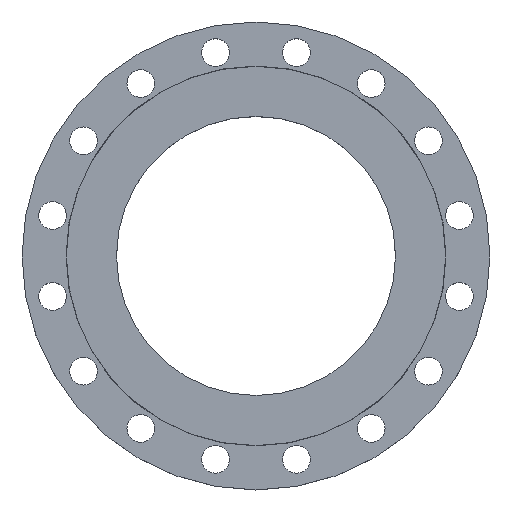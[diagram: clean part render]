
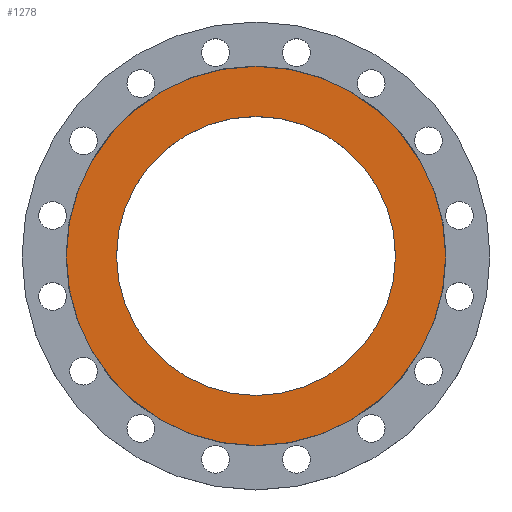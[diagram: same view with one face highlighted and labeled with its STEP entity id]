
A CAD part, top view. The second image highlights one B-rep face of the part: STEP entity #1278.
In plain terms, the highlighted planar face has unit normal (0, 0, 1).
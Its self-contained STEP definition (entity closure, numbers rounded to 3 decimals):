
#44 = DIRECTION ( 'NONE',  ( 1., 0., 0. ) ) ;
#45 = DIRECTION ( 'NONE',  ( 0., 0., 1. ) ) ;
#49 = CARTESIAN_POINT ( 'NONE',  ( 0., 0., 0. ) ) ;
#50 = PLANE ( 'NONE',  #1072 ) ;
#51 = FACE_OUTER_BOUND ( 'NONE', #803, .T. ) ;
#53 = FACE_BOUND ( 'NONE', #805, .T. ) ;
#94 = DIRECTION ( 'NONE',  ( 1., 0., 0. ) ) ;
#99 = DIRECTION ( 'NONE',  ( 0., 0., 1. ) ) ;
#100 = CARTESIAN_POINT ( 'NONE',  ( 0., 0., 0. ) ) ;
#176 = CARTESIAN_POINT ( 'NONE',  ( -196.752, 0., 0. ) ) ;
#233 = DIRECTION ( 'NONE',  ( 1., 0., 0. ) ) ;
#235 = DIRECTION ( 'NONE',  ( 0., 0., 1. ) ) ;
#236 = CARTESIAN_POINT ( 'NONE',  ( 0., 0., 0. ) ) ;
#252 = CIRCLE ( 'NONE', #577, 267.5 ) ;
#288 = CIRCLE ( 'NONE', #1069, 196.752 ) ;
#430 = DIRECTION ( 'NONE',  ( -1., 0., 0. ) ) ;
#431 = DIRECTION ( 'NONE',  ( 0., 0., -1. ) ) ;
#434 = CARTESIAN_POINT ( 'NONE',  ( 0., 0., 0. ) ) ;
#439 = CARTESIAN_POINT ( 'NONE',  ( 196.752, 0., 0. ) ) ;
#500 = CARTESIAN_POINT ( 'NONE',  ( 267.5, 0., 0. ) ) ;
#505 = CARTESIAN_POINT ( 'NONE',  ( -267.5, 0., 0. ) ) ;
#577 = AXIS2_PLACEMENT_3D ( 'NONE', #434, #431, #430 ) ;
#586 = CIRCLE ( 'NONE', #1097, 196.752 ) ;
#769 = VERTEX_POINT ( 'NONE', #505 ) ;
#773 = VERTEX_POINT ( 'NONE', #500 ) ;
#803 = EDGE_LOOP ( 'NONE', ( #1454, #1456 ) ) ;
#805 = EDGE_LOOP ( 'NONE', ( #1451, #1453 ) ) ;
#871 = VERTEX_POINT ( 'NONE', #439 ) ;
#909 = EDGE_CURVE ( 'NONE', #773, #769, #252, .T. ) ;
#997 = DIRECTION ( 'NONE',  ( -1., 0., 0. ) ) ;
#998 = DIRECTION ( 'NONE',  ( 0., 0., -1. ) ) ;
#1000 = CARTESIAN_POINT ( 'NONE',  ( 0., 0., 0. ) ) ;
#1069 = AXIS2_PLACEMENT_3D ( 'NONE', #236, #235, #233 ) ;
#1072 = AXIS2_PLACEMENT_3D ( 'NONE', #49, #45, #44 ) ;
#1097 = AXIS2_PLACEMENT_3D ( 'NONE', #100, #99, #94 ) ;
#1151 = EDGE_CURVE ( 'NONE', #871, #1178, #288, .T. ) ;
#1178 = VERTEX_POINT ( 'NONE', #176 ) ;
#1230 = EDGE_CURVE ( 'NONE', #1178, #871, #586, .T. ) ;
#1278 = ADVANCED_FACE ( 'NONE', ( #53, #51 ), #50, .T. ) ;
#1339 = AXIS2_PLACEMENT_3D ( 'NONE', #1000, #998, #997 ) ;
#1360 = CIRCLE ( 'NONE', #1339, 267.5 ) ;
#1451 = ORIENTED_EDGE ( 'NONE', *, *, #1151, .F. ) ;
#1453 = ORIENTED_EDGE ( 'NONE', *, *, #1230, .F. ) ;
#1454 = ORIENTED_EDGE ( 'NONE', *, *, #1566, .F. ) ;
#1456 = ORIENTED_EDGE ( 'NONE', *, *, #909, .F. ) ;
#1566 = EDGE_CURVE ( 'NONE', #769, #773, #1360, .T. ) ;
